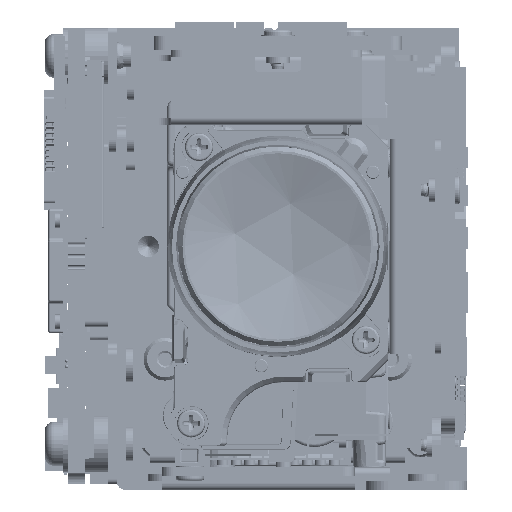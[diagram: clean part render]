
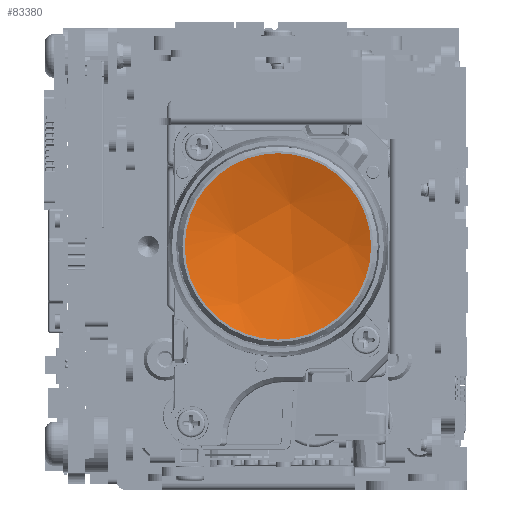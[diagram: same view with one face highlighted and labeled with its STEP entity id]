
A CAD part, front view. The second image highlights one B-rep face of the part: STEP entity #83380.
In plain terms, the highlighted spherical face has radius 23.53 mm.
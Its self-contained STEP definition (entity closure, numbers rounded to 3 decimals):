
#83380 = ADVANCED_FACE( 'G01(R2\X2\976251F8FF92FF86FF7DFF76FF7D\X0\)', ( #177433 ), #177434, .F. );
#177433 = FACE_OUTER_BOUND( '', #308896, .T. );
#177434 = SPHERICAL_SURFACE( '', #308897, 23.53 );
#308896 = EDGE_LOOP( '', ( #538346 ) );
#308897 = AXIS2_PLACEMENT_3D( '', #538347, #538348, #538349 );
#538346 = ORIENTED_EDGE( '', *, *, #797420, .F. );
#538347 = CARTESIAN_POINT( '', ( 0., 0., 75.134 ) );
#538348 = DIRECTION( '', ( -0.479, 0.878, 0. ) );
#538349 = DIRECTION( '', ( 0.313, 0.171, -0.934 ) );
#797420 = EDGE_CURVE( '', #971184, #971184, #971185, .F. );
#971184 = VERTEX_POINT( '', #1239299 );
#971185 = CIRCLE( '', #1239300, 8.26 );
#1239299 = CARTESIAN_POINT( '', ( 8.26, 0., 53.101 ) );
#1239300 = AXIS2_PLACEMENT_3D( '', #1476698, #1476699, #1476700 );
#1476698 = CARTESIAN_POINT( '', ( 0., 0., 53.101 ) );
#1476699 = DIRECTION( '', ( 0., 0., 1. ) );
#1476700 = DIRECTION( '', ( 1., 0., 0. ) );
